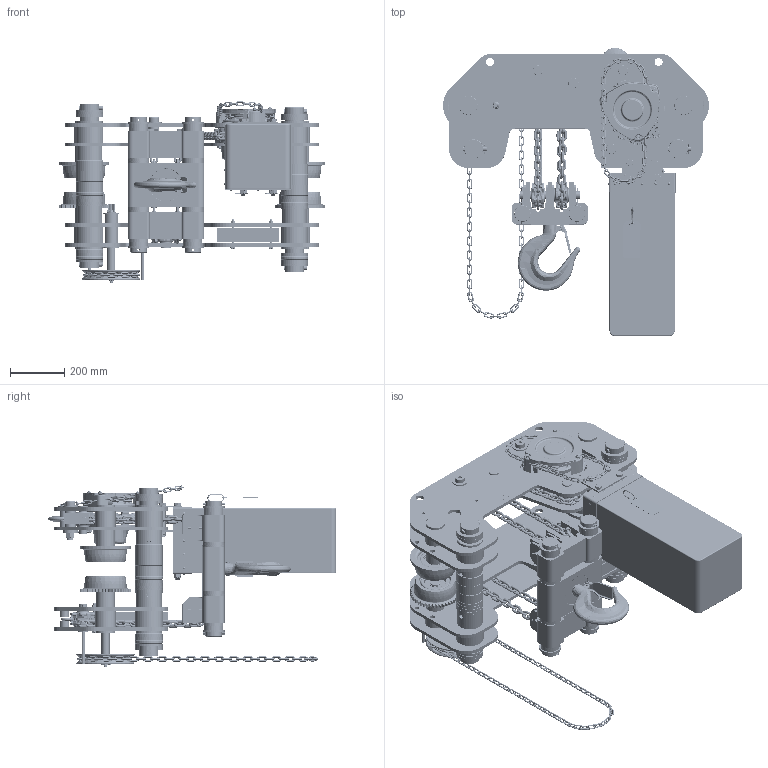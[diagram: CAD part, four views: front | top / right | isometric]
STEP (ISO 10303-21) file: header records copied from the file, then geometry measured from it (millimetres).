
FILE_DESCRIPTION (( 'STEP AP214' ), '1' );
FILE_NAME ('SHB100.STEP', '2026-08-12T18:42:22', ( '' ), ( '' ), 'SwSTEP 2.0', 'SolidWorks 2026', '' );
FILE_SCHEMA (( 'AUTOMOTIVE_DESIGN' ));
Length unit declared in the file: inch
Products named in the file (145): Copy (2) of Part2^C3BA025-10012; 74CG100-92071; C3BA050-90512; 8m X 40 SHCS_9091271; M3177025; HCCF005 FOR CF030; M3161025; T1GC200-91042; 74CG100-91071H; M3116025; 73CG100-98021_73CG100-98021; CB025; C2BA200-90741_C2BA200-90741; J1SS000-00040_J1SS000-00040; C3BA025-10211; M3103025; L41071090; 74CG100-11411H; 9012713_9012713; J1NL001-10120_J1NL001-10120; T6PD0059865; 72BD100-93011; C3BA025-20012; 72BD100-94021H; C3BA025-10012; M6SE100S9182; C3BA005-91731; J1PS11-060050_J1PS11-060050; 73CG100-98021; CB025 HAND CHAIN; C3BA025-91722; rivet 07_din_DIN 674-4x6-St-A-1.5; M3B101025; MS117075; M8 Latch Nut_B18.2.4.1M - Hex nut, Style 1,  M8 x 1.25 --D-N; 72BD0509203; 74SH100-05101H; CB080 LABEL; 74CG100-91161H; MR2SHM1QS9A7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
Assembly tree (638 placements, depth 6):
  SHB100
    74SH100-05101H
      74CG100-11401H
        74CG100-51111H
          74CG100-91011H
          72CG100-91041H  x2
          72CG100-91031H  x2
          74CG100-91021H
          72CG100-91062  x2
          72CG100-91051
          74CG100-90031  x2
          74CG050-91111H  x2
        72BD100-94021H
        74CG100-92221
        C3BA050-10512
          C3BA050-90512
          C3BA050-90611  x2
        J1PS11-060045_J1PS11-060045
        74CG100-91161H
        T3GA100-11021
          T3GA1009102
          6308Z Bearing
          J1SR000-00090_J1SR000-00090
        T3GA100-11011_T3GA100-11011
          T3GA1009101
          6308Z Bearing
          J1SR000-00090_J1SR000-00090
        T1GC200-91042  x2
        T3GB100-91212_T3GB100-91212
        J1SS000-00040_J1SS000-00040  x2
        J1NL001-10120_J1NL001-10120
        J1PW01-030022_J1PW01-030022
        J1WB011-10120_J1WB011-10120
        J1WB012-10300_J1WB012-10300  x2
        J1SS000-00030_J1SS000-00030  x2
        J1BA1-1010026_J1BA1-1010026  x4
        C2BA200-90741_C2BA200-90741  x4
        9010004_3107T43
      74CG100-11411H
        74CG100-51121H
          74CG100-91071H
          72CG100-91041H  x2
          72CG100-91031H  x2
          74CG100-91081H
          74CG050-91111H  x4
          74CG100-90031  x4
          72CG100-91391  x4
        T3GA100-11021  x2
          T3GA1009102
          6308Z Bearing
          J1SR000-00090_J1SR000-00090
        74CG100-91161H  x2
        74CG100-91342
        C3BA050-10512  x2
          C3BA050-90512
          C3BA050-90611
        J1PS11-060045_J1PS11-060045  x2
        T1GC200-91042  x2
        J1SS000-00040_J1SS000-00040  x2
        74CG100-91351
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Bounding box: 978.2 x 1059.41 x 667.23 mm (x, y, z)
Volume: 49884975.4 mm3; surface area: 9756630.7 mm2
Topology: 666 solids, 682 shells, 29768 faces, 73756 edges, 45985 vertices
Faces by surface type: plane 10258, cylinder 8055, torus 5783, bspline 3682, cone 1432, sphere 558
Entity records: 623434 total; most frequent: CARTESIAN_POINT 251171, ORIENTED_EDGE 66546, DIRECTION 54429, EDGE_CURVE 33275, VERTEX_POINT 21349, AXIS2_PLACEMENT_3D 18609, LINE 17211, VECTOR 17211
